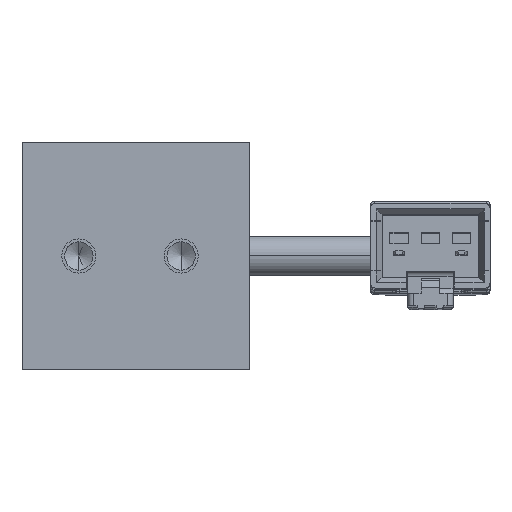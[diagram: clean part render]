
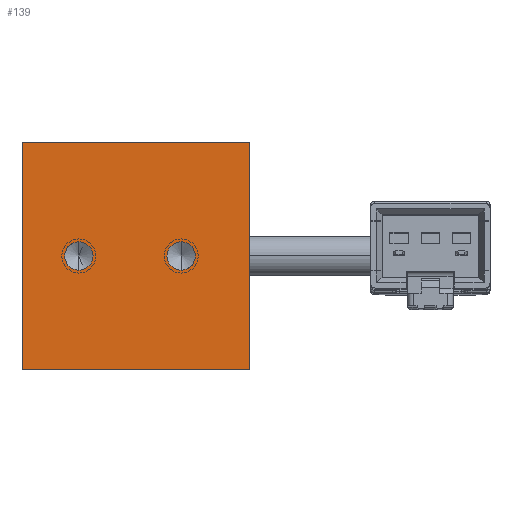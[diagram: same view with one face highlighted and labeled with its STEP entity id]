
A CAD part, left-side view. The second image highlights one B-rep face of the part: STEP entity #139.
In plain terms, the highlighted planar face has unit normal (-1, 0, 0).
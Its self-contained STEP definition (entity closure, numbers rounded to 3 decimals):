
#125 = CIRCLE ( 'NONE', #3710, 1.25 ) ;
#139 = ADVANCED_FACE ( 'NONE', ( #7912, #3038, #1790 ), #2357, .T. ) ;
#721 = VERTEX_POINT ( 'NONE', #1884 ) ;
#774 = DIRECTION ( 'NONE',  ( 1., 0., 0. ) ) ;
#1083 = VECTOR ( 'NONE', #6841, 1000. ) ;
#1148 = VERTEX_POINT ( 'NONE', #4677 ) ;
#1407 = DIRECTION ( 'NONE',  ( 1., 0., 0. ) ) ;
#1490 = ORIENTED_EDGE ( 'NONE', *, *, #5112, .T. ) ;
#1551 = ORIENTED_EDGE ( 'NONE', *, *, #5499, .F. ) ;
#1709 = VERTEX_POINT ( 'NONE', #8741 ) ;
#1790 = FACE_OUTER_BOUND ( 'NONE', #4045, .T. ) ;
#1861 = CARTESIAN_POINT ( 'NONE',  ( -70., 0., -10. ) ) ;
#1875 = LINE ( 'NONE', #2465, #1083 ) ;
#1884 = CARTESIAN_POINT ( 'NONE',  ( -70., 20., -10. ) ) ;
#1891 = CIRCLE ( 'NONE', #3459, 1.25 ) ;
#2357 = PLANE ( 'NONE',  #7116 ) ;
#2402 = CARTESIAN_POINT ( 'NONE',  ( -70., 6., -1.25 ) ) ;
#2429 = LINE ( 'NONE', #7808, #2649 ) ;
#2465 = CARTESIAN_POINT ( 'NONE',  ( -70., 0., 10. ) ) ;
#2649 = VECTOR ( 'NONE', #7004, 1000. ) ;
#2727 = EDGE_CURVE ( 'NONE', #721, #1709, #2429, .T. ) ;
#2981 = VERTEX_POINT ( 'NONE', #2402 ) ;
#3038 = FACE_BOUND ( 'NONE', #6004, .T. ) ;
#3124 = ORIENTED_EDGE ( 'NONE', *, *, #2727, .F. ) ;
#3335 = LINE ( 'NONE', #4164, #7065 ) ;
#3407 = CIRCLE ( 'NONE', #4375, 1.25 ) ;
#3459 = AXIS2_PLACEMENT_3D ( 'NONE', #7303, #774, #5158 ) ;
#3710 = AXIS2_PLACEMENT_3D ( 'NONE', #9322, #5667, #6424 ) ;
#3857 = DIRECTION ( 'NONE',  ( 0., 1., 0. ) ) ;
#3921 = VERTEX_POINT ( 'NONE', #7384 ) ;
#4045 = EDGE_LOOP ( 'NONE', ( #1551, #1490, #6011, #3124 ) ) ;
#4133 = CIRCLE ( 'NONE', #4411, 1.25 ) ;
#4164 = CARTESIAN_POINT ( 'NONE',  ( -70., 0., 0. ) ) ;
#4283 = DIRECTION ( 'NONE',  ( 1., 0., 0. ) ) ;
#4357 = CARTESIAN_POINT ( 'NONE',  ( -70., 6., 0. ) ) ;
#4375 = AXIS2_PLACEMENT_3D ( 'NONE', #4357, #1407, #8677 ) ;
#4411 = AXIS2_PLACEMENT_3D ( 'NONE', #5617, #4283, #8607 ) ;
#4677 = CARTESIAN_POINT ( 'NONE',  ( -70., 6., 1.25 ) ) ;
#4840 = EDGE_CURVE ( 'NONE', #7872, #3921, #1891, .T. ) ;
#5112 = EDGE_CURVE ( 'NONE', #9028, #7863, #3335, .T. ) ;
#5121 = EDGE_LOOP ( 'NONE', ( #7758, #6240 ) ) ;
#5150 = EDGE_CURVE ( 'NONE', #3921, #7872, #4133, .T. ) ;
#5158 = DIRECTION ( 'NONE',  ( 0., 0., -1. ) ) ;
#5256 = ORIENTED_EDGE ( 'NONE', *, *, #4840, .T. ) ;
#5499 = EDGE_CURVE ( 'NONE', #9028, #721, #9230, .T. ) ;
#5617 = CARTESIAN_POINT ( 'NONE',  ( -70., 15., 0. ) ) ;
#5667 = DIRECTION ( 'NONE',  ( 1., 0., 0. ) ) ;
#5707 = CARTESIAN_POINT ( 'NONE',  ( -70., 15., -1.25 ) ) ;
#5949 = CARTESIAN_POINT ( 'NONE',  ( -70., 0., -10. ) ) ;
#6004 = EDGE_LOOP ( 'NONE', ( #5256, #8428 ) ) ;
#6011 = ORIENTED_EDGE ( 'NONE', *, *, #8261, .T. ) ;
#6240 = ORIENTED_EDGE ( 'NONE', *, *, #7026, .T. ) ;
#6301 = DIRECTION ( 'NONE',  ( 0., 0., 1. ) ) ;
#6424 = DIRECTION ( 'NONE',  ( 0., 0., -1. ) ) ;
#6841 = DIRECTION ( 'NONE',  ( 0., 1., 0. ) ) ;
#6949 = DIRECTION ( 'NONE',  ( 0., 0., 1. ) ) ;
#7004 = DIRECTION ( 'NONE',  ( 0., 0., 1. ) ) ;
#7026 = EDGE_CURVE ( 'NONE', #1148, #2981, #125, .T. ) ;
#7065 = VECTOR ( 'NONE', #6301, 1000. ) ;
#7116 = AXIS2_PLACEMENT_3D ( 'NONE', #1861, #8375, #6949 ) ;
#7211 = CARTESIAN_POINT ( 'NONE',  ( -70., 0., 10. ) ) ;
#7303 = CARTESIAN_POINT ( 'NONE',  ( -70., 15., 0. ) ) ;
#7384 = CARTESIAN_POINT ( 'NONE',  ( -70., 15., 1.25 ) ) ;
#7758 = ORIENTED_EDGE ( 'NONE', *, *, #8679, .T. ) ;
#7808 = CARTESIAN_POINT ( 'NONE',  ( -70., 20., 0. ) ) ;
#7863 = VERTEX_POINT ( 'NONE', #7211 ) ;
#7872 = VERTEX_POINT ( 'NONE', #5707 ) ;
#7912 = FACE_BOUND ( 'NONE', #5121, .T. ) ;
#7976 = VECTOR ( 'NONE', #3857, 1000. ) ;
#8261 = EDGE_CURVE ( 'NONE', #7863, #1709, #1875, .T. ) ;
#8375 = DIRECTION ( 'NONE',  ( -1., 0., 0. ) ) ;
#8428 = ORIENTED_EDGE ( 'NONE', *, *, #5150, .T. ) ;
#8607 = DIRECTION ( 'NONE',  ( 0., 0., -1. ) ) ;
#8677 = DIRECTION ( 'NONE',  ( 0., 0., -1. ) ) ;
#8679 = EDGE_CURVE ( 'NONE', #2981, #1148, #3407, .T. ) ;
#8741 = CARTESIAN_POINT ( 'NONE',  ( -70., 20., 10. ) ) ;
#9028 = VERTEX_POINT ( 'NONE', #9394 ) ;
#9230 = LINE ( 'NONE', #5949, #7976 ) ;
#9322 = CARTESIAN_POINT ( 'NONE',  ( -70., 6., 0. ) ) ;
#9394 = CARTESIAN_POINT ( 'NONE',  ( -70., 0., -10. ) ) ;
